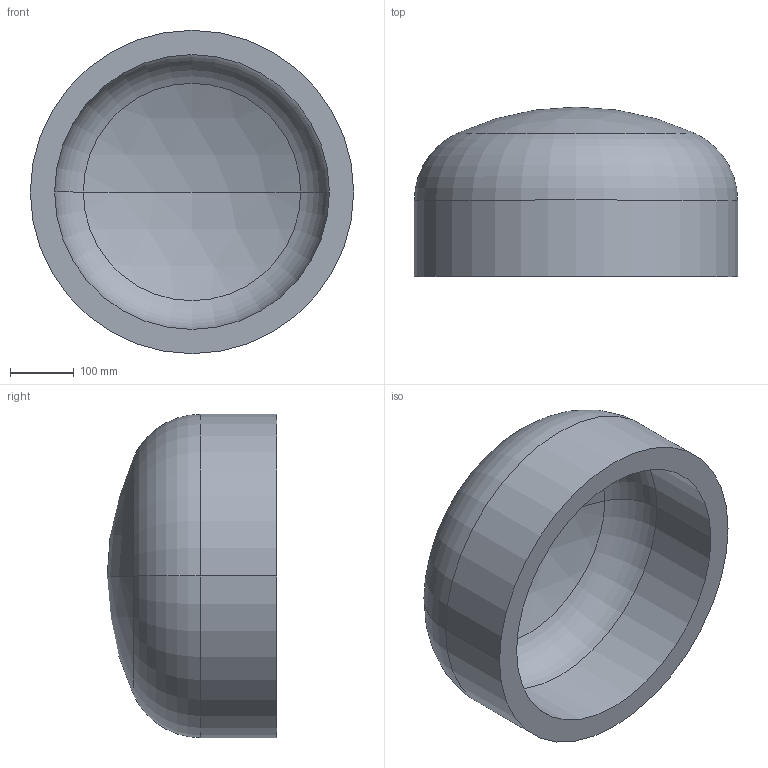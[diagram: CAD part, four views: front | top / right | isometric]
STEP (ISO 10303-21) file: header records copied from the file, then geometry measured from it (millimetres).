
FILE_DESCRIPTION (( 'STEP AP203' ), '1' );
FILE_NAME ('DIN 28013 Korbbogenform_-_Boden DIN 28013 - 508 x 120 - I - s=38.step', '2016-07-01T07:54:31', ( '' ), ( '' ), 'SwSTEP 2.0', 'SolidWorks 2013', '' );
FILE_SCHEMA (( 'CONFIG_CONTROL_DESIGN' ));
Length unit declared in the file: millimetre
Products named in the file (1): DIN 28013 Korbbogenform_-_Boden DIN 28013 - 508 x 120 - I - s=38
Bounding box: 508 x 266.44 x 508 mm (x, y, z)
Volume: 16434997.1 mm3; surface area: 924132.9 mm2
Topology: 1 solids, 1 shells, 13 faces, 24 edges, 14 vertices
Faces by surface type: torus 4, cylinder 4, sphere 4, plane 1
Entity records: 407 total; most frequent: DIRECTION 72, CARTESIAN_POINT 52, ORIENTED_EDGE 48, AXIS2_PLACEMENT_3D 34, EDGE_CURVE 24, CIRCLE 20, VERTEX_POINT 14, EDGE_LOOP 14
